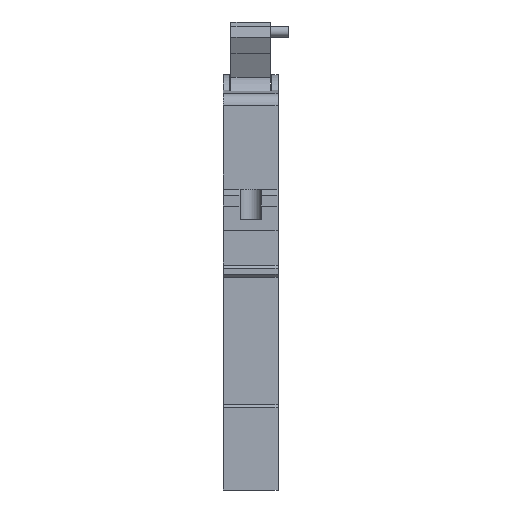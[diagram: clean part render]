
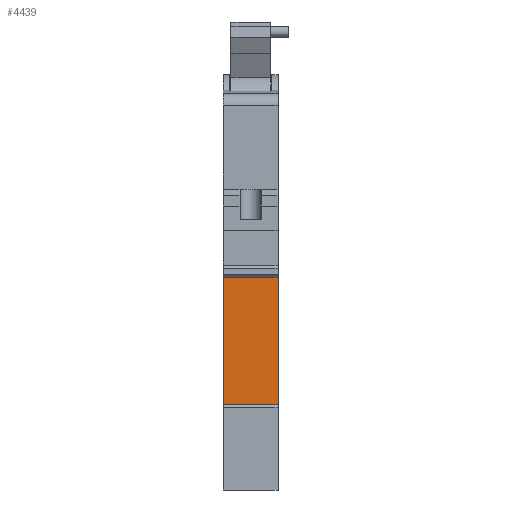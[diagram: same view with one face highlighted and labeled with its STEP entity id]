
A CAD part, front view. The second image highlights one B-rep face of the part: STEP entity #4439.
In plain terms, the highlighted planar face has unit normal (0, -1, 0).
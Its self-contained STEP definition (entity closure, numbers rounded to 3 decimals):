
#244=PLANE('',#4814);
#539=FACE_OUTER_BOUND('',#850,.T.);
#850=EDGE_LOOP('',(#3984,#3985,#3986,#3987));
#1221=LINE('',#7987,#1602);
#1293=LINE('',#8151,#1674);
#1294=LINE('',#8154,#1675);
#1295=LINE('',#8155,#1676);
#1602=VECTOR('',#5689,10.);
#1674=VECTOR('',#5861,10.);
#1675=VECTOR('',#5864,10.);
#1676=VECTOR('',#5865,10.);
#2216=VERTEX_POINT('',#7984);
#2217=VERTEX_POINT('',#7986);
#2259=VERTEX_POINT('',#8149);
#2260=VERTEX_POINT('',#8153);
#2775=EDGE_CURVE('',#2217,#2216,#1221,.T.);
#2857=EDGE_CURVE('',#2216,#2259,#1293,.T.);
#2858=EDGE_CURVE('',#2260,#2259,#1294,.T.);
#2859=EDGE_CURVE('',#2217,#2260,#1295,.T.);
#3984=ORIENTED_EDGE('',*,*,#2775,.T.);
#3985=ORIENTED_EDGE('',*,*,#2857,.T.);
#3986=ORIENTED_EDGE('',*,*,#2858,.F.);
#3987=ORIENTED_EDGE('',*,*,#2859,.F.);
#4439=ADVANCED_FACE('',(#539),#244,.T.);
#4814=AXIS2_PLACEMENT_3D('',#8152,#5862,#5863);
#5689=DIRECTION('',(0.,0.,1.));
#5861=DIRECTION('',(-1.,0.,0.));
#5862=DIRECTION('center_axis',(0.,-1.,0.));
#5863=DIRECTION('ref_axis',(0.,0.,
1.));
#5864=DIRECTION('',(0.,0.,1.));
#5865=DIRECTION('',(-1.,0.,0.));
#7984=CARTESIAN_POINT('',(11.997,426.369,774.091));
#7986=CARTESIAN_POINT('',(11.997,426.369,753.091));
#7987=CARTESIAN_POINT('',(11.997,426.369,753.091));
#8149=CARTESIAN_POINT('',(2.997,426.369,774.091));
#8151=CARTESIAN_POINT('',(11.997,426.369,774.091));
#8152=CARTESIAN_POINT('Origin',(11.997,426.369,753.091));
#8153=CARTESIAN_POINT('',(2.997,426.369,753.091));
#8154=CARTESIAN_POINT('',(2.997,426.369,753.091));
#8155=CARTESIAN_POINT('',(11.997,426.369,753.091));
